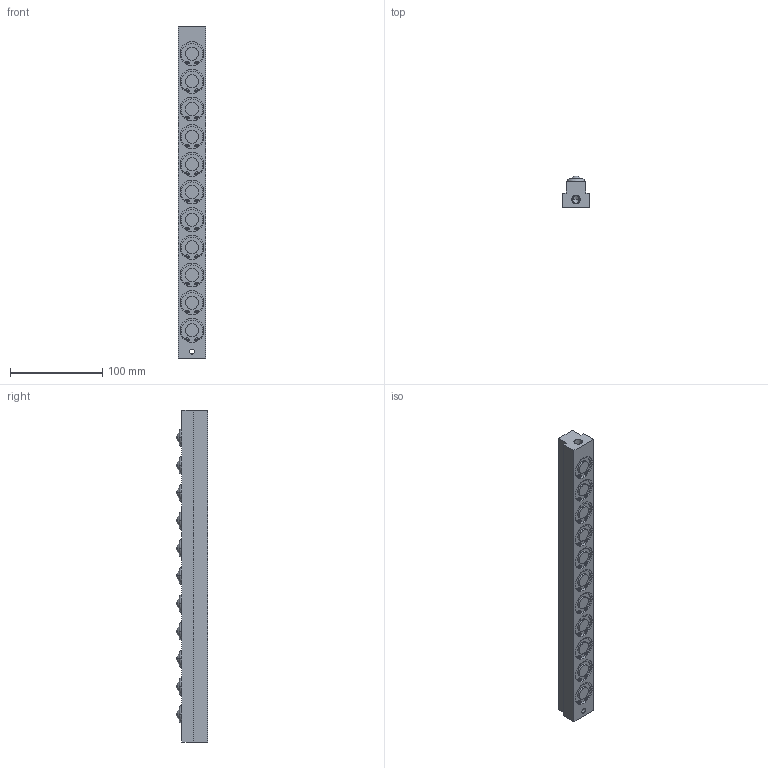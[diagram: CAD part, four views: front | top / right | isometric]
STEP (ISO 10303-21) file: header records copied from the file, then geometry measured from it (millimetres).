
FILE_DESCRIPTION (( 'STEP AP203' ), '1' );
FILE_NAME ('PVL20T-11.STEP', '2015-12-24T07:25:28', ( '' ), ( '' ), 'SwSTEP 2.0', 'SolidWorks 2013', '' );
FILE_SCHEMA (( 'CONFIG_CONTROL_DESIGN' ));
Length unit declared in the file: millimetre
Products named in the file (1): PVL20T-11
Bounding box: 30 x 34 x 360 mm (x, y, z)
Volume: 264307.7 mm3; surface area: 48626.4 mm2
Topology: 1 solids, 1 shells, 330 faces, 789 edges, 528 vertices
Faces by surface type: cylinder 182, plane 100, torus 22, sphere 22, cone 4
Entity records: 9932 total; most frequent: DIRECTION 1949, CARTESIAN_POINT 1646, ORIENTED_EDGE 1574, AXIS2_PLACEMENT_3D 831, EDGE_CURVE 787, VERTEX_POINT 528, CIRCLE 500, EDGE_LOOP 401
